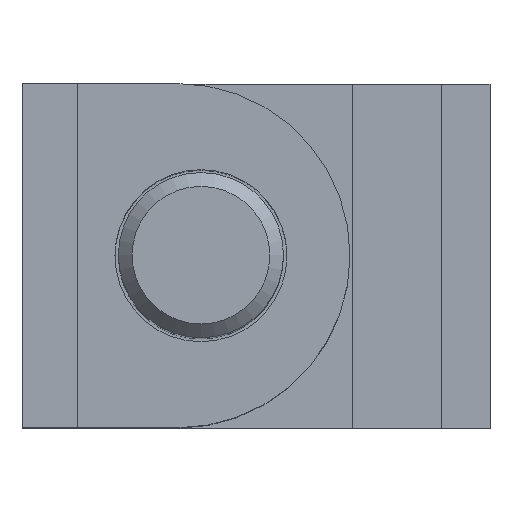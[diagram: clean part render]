
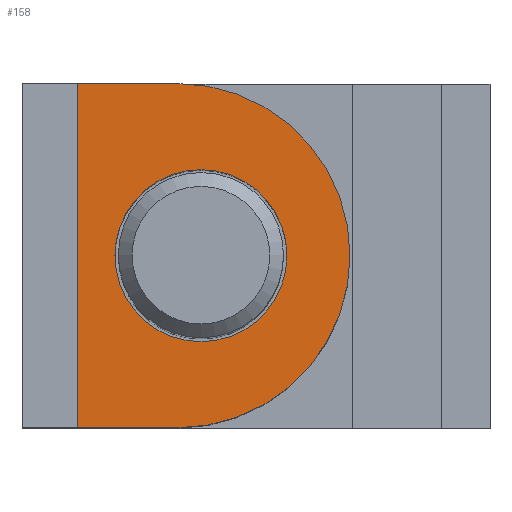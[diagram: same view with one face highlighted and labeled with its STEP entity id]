
A CAD part, top view. The second image highlights one B-rep face of the part: STEP entity #158.
In plain terms, the highlighted planar face has unit normal (0, 0, 1).
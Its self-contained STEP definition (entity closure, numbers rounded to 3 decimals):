
#158 = ADVANCED_FACE( '', ( #293, #294 ), #295, .T. );
#293 = FACE_OUTER_BOUND( '', #426, .T. );
#294 = FACE_BOUND( '', #427, .T. );
#295 = PLANE( '', #428 );
#426 = EDGE_LOOP( '', ( #640, #641, #642, #643 ) );
#427 = EDGE_LOOP( '', ( #644 ) );
#428 = AXIS2_PLACEMENT_3D( '', #645, #646, #647 );
#640 = ORIENTED_EDGE( '', *, *, #820, .F. );
#641 = ORIENTED_EDGE( '', *, *, #842, .F. );
#642 = ORIENTED_EDGE( '', *, *, #843, .F. );
#643 = ORIENTED_EDGE( '', *, *, #824, .T. );
#644 = ORIENTED_EDGE( '', *, *, #844, .F. );
#645 = CARTESIAN_POINT( '', ( -13., -12.5, 20.5 ) );
#646 = DIRECTION( '', ( 0., 0., 1. ) );
#647 = DIRECTION( '', ( 1., 0., 0. ) );
#820 = EDGE_CURVE( '', #959, #960, #961, .T. );
#824 = EDGE_CURVE( '', #965, #960, #966, .T. );
#842 = EDGE_CURVE( '', #991, #959, #992, .T. );
#843 = EDGE_CURVE( '', #965, #991, #993, .T. );
#844 = EDGE_CURVE( '', #994, #994, #995, .T. );
#959 = VERTEX_POINT( '', #1146 );
#960 = VERTEX_POINT( '', #1147 );
#961 = CIRCLE( '', #1148, 12.5 );
#965 = VERTEX_POINT( '', #1154 );
#966 = LINE( '', #1155, #1156 );
#991 = VERTEX_POINT( '', #1192 );
#992 = LINE( '', #1193, #1194 );
#993 = LINE( '', #1195, #1196 );
#994 = VERTEX_POINT( '', #1197 );
#995 = CIRCLE( '', #1198, 6.25 );
#1146 = CARTESIAN_POINT( '', ( -5.672, 12.5, 20.5 ) );
#1147 = CARTESIAN_POINT( '', ( -5.672, -12.5, 20.5 ) );
#1148 = AXIS2_PLACEMENT_3D( '', #1293, #1294, #1295 );
#1154 = CARTESIAN_POINT( '', ( -13., -12.5, 20.5 ) );
#1155 = CARTESIAN_POINT( '', ( -13., -12.5, 20.5 ) );
#1156 = VECTOR( '', #1298, 1000. );
#1192 = CARTESIAN_POINT( '', ( -13., 12.5, 20.5 ) );
#1193 = CARTESIAN_POINT( '', ( -13., 12.5, 20.5 ) );
#1194 = VECTOR( '', #1316, 1000. );
#1195 = CARTESIAN_POINT( '', ( -13., -12.5, 20.5 ) );
#1196 = VECTOR( '', #1317, 1000. );
#1197 = CARTESIAN_POINT( '', ( 2.25, 0., 20.5 ) );
#1198 = AXIS2_PLACEMENT_3D( '', #1318, #1319, #1320 );
#1293 = CARTESIAN_POINT( '', ( -5.672, 0., 20.5 ) );
#1294 = DIRECTION( '', ( 0., 0., -1. ) );
#1295 = DIRECTION( '', ( -1., 0., 0. ) );
#1298 = DIRECTION( '', ( 1., 0., 0. ) );
#1316 = DIRECTION( '', ( 1., 0., 0. ) );
#1317 = DIRECTION( '', ( 0., 1., 0. ) );
#1318 = CARTESIAN_POINT( '', ( -4., 0., 20.5 ) );
#1319 = DIRECTION( '', ( 0., 0., 1. ) );
#1320 = DIRECTION( '', ( 1., 0., 0. ) );
